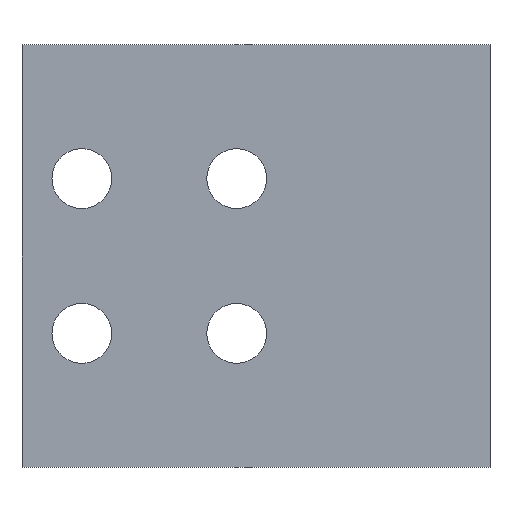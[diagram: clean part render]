
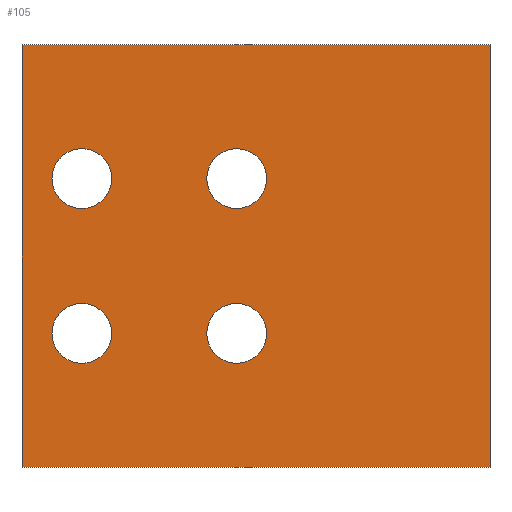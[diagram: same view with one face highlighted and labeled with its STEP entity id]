
A CAD part, front view. The second image highlights one B-rep face of the part: STEP entity #105.
In plain terms, the highlighted planar face has unit normal (0, -1, 0).
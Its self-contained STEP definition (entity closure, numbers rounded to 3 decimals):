
#101 = EDGE_CURVE( '', #241, #139, #267, .T. );
#103 = EDGE_CURVE( '', #175, #227, #269, .T. );
#105 = ADVANCED_FACE( '', ( #271, #272, #273, #274, #275 ), #276, .T. );
#109 = VERTEX_POINT( '', #281 );
#117 = EDGE_CURVE( '', #179, #155, #290, .T. );
#123 = VERTEX_POINT( '', #296 );
#127 = VERTEX_POINT( '', #300 );
#129 = VERTEX_POINT( '', #302 );
#137 = EDGE_CURVE( '', #129, #241, #310, .T. );
#139 = VERTEX_POINT( '', #312 );
#143 = EDGE_CURVE( '', #129, #127, #316, .T. );
#145 = EDGE_CURVE( '', #155, #179, #318, .T. );
#147 = EDGE_CURVE( '', #127, #139, #320, .T. );
#155 = VERTEX_POINT( '', #328 );
#161 = VERTEX_POINT( '', #334 );
#175 = VERTEX_POINT( '', #352 );
#179 = VERTEX_POINT( '', #356 );
#181 = EDGE_CURVE( '', #109, #161, #358, .T. );
#203 = VERTEX_POINT( '', #389 );
#207 = EDGE_CURVE( '', #227, #175, #393, .T. );
#223 = EDGE_CURVE( '', #123, #203, #410, .T. );
#227 = VERTEX_POINT( '', #415 );
#229 = EDGE_CURVE( '', #161, #109, #417, .T. );
#237 = EDGE_CURVE( '', #203, #123, #425, .T. );
#241 = VERTEX_POINT( '', #429 );
#267 = LINE( '', #448, #449 );
#269 = CIRCLE( '', #452, 4.25 );
#271 = FACE_BOUND( '', #454, .T. );
#272 = FACE_BOUND( '', #455, .T. );
#273 = FACE_BOUND( '', #456, .T. );
#274 = FACE_BOUND( '', #457, .T. );
#275 = FACE_OUTER_BOUND( '', #458, .T. );
#276 = PLANE( '', #459 );
#281 = CARTESIAN_POINT( '', ( 1.5, 0., -11. ) );
#290 = CIRCLE( '', #476, 4.25 );
#296 = CARTESIAN_POINT( '', ( -20.5, 0., 11. ) );
#300 = CARTESIAN_POINT( '', ( -33.25, 0., 30. ) );
#302 = CARTESIAN_POINT( '', ( 33.25, 0., 30. ) );
#310 = LINE( '', #502, #503 );
#312 = CARTESIAN_POINT( '', ( -33.25, 0., -30. ) );
#316 = LINE( '', #512, #513 );
#318 = CIRCLE( '', #516, 4.25 );
#320 = LINE( '', #519, #520 );
#328 = CARTESIAN_POINT( '', ( -29., 0., -11. ) );
#334 = CARTESIAN_POINT( '', ( -7., 0., -11. ) );
#352 = CARTESIAN_POINT( '', ( 1.5, 0., 11. ) );
#356 = CARTESIAN_POINT( '', ( -20.5, 0., -11. ) );
#358 = CIRCLE( '', #564, 4.25 );
#389 = CARTESIAN_POINT( '', ( -29., 0., 11. ) );
#393 = CIRCLE( '', #607, 4.25 );
#410 = CIRCLE( '', #635, 4.25 );
#415 = CARTESIAN_POINT( '', ( -7., 0., 11. ) );
#417 = CIRCLE( '', #643, 4.25 );
#425 = CIRCLE( '', #654, 4.25 );
#429 = CARTESIAN_POINT( '', ( 33.25, 0., -30. ) );
#448 = CARTESIAN_POINT( '', ( 33.25, 0., -30. ) );
#449 = VECTOR( '', #671, 1. );
#452 = AXIS2_PLACEMENT_3D( '', #672, #673, #674 );
#454 = EDGE_LOOP( '', ( #676, #677 ) );
#455 = EDGE_LOOP( '', ( #678, #679 ) );
#456 = EDGE_LOOP( '', ( #680, #681 ) );
#457 = EDGE_LOOP( '', ( #682, #683 ) );
#458 = EDGE_LOOP( '', ( #684, #685, #686, #687 ) );
#459 = AXIS2_PLACEMENT_3D( '', #688, #689, #690 );
#476 = AXIS2_PLACEMENT_3D( '', #708, #709, #710 );
#502 = CARTESIAN_POINT( '', ( 33.25, 0., 30. ) );
#503 = VECTOR( '', #720, 1. );
#512 = CARTESIAN_POINT( '', ( 33.25, 0., 30. ) );
#513 = VECTOR( '', #722, 1. );
#516 = AXIS2_PLACEMENT_3D( '', #723, #724, #725 );
#519 = CARTESIAN_POINT( '', ( -33.25, 0., 30. ) );
#520 = VECTOR( '', #726, 1. );
#564 = AXIS2_PLACEMENT_3D( '', #769, #770, #771 );
#607 = AXIS2_PLACEMENT_3D( '', #826, #827, #828 );
#635 = AXIS2_PLACEMENT_3D( '', #842, #843, #844 );
#643 = AXIS2_PLACEMENT_3D( '', #853, #854, #855 );
#654 = AXIS2_PLACEMENT_3D( '', #857, #858, #859 );
#671 = DIRECTION( '', ( -1., 0., 0. ) );
#672 = CARTESIAN_POINT( '', ( -2.75, 0., 11. ) );
#673 = DIRECTION( '', ( 0., 1., 0. ) );
#674 = DIRECTION( '', ( -1., 0., 0. ) );
#676 = ORIENTED_EDGE( '', *, *, #103, .T. );
#677 = ORIENTED_EDGE( '', *, *, #207, .T. );
#678 = ORIENTED_EDGE( '', *, *, #223, .T. );
#679 = ORIENTED_EDGE( '', *, *, #237, .T. );
#680 = ORIENTED_EDGE( '', *, *, #181, .T. );
#681 = ORIENTED_EDGE( '', *, *, #229, .T. );
#682 = ORIENTED_EDGE( '', *, *, #117, .T. );
#683 = ORIENTED_EDGE( '', *, *, #145, .T. );
#684 = ORIENTED_EDGE( '', *, *, #147, .T. );
#685 = ORIENTED_EDGE( '', *, *, #101, .F. );
#686 = ORIENTED_EDGE( '', *, *, #137, .F. );
#687 = ORIENTED_EDGE( '', *, *, #143, .T. );
#688 = CARTESIAN_POINT( '', ( 33.25, 0., 30. ) );
#689 = DIRECTION( '', ( 0., -1., 0. ) );
#690 = DIRECTION( '', ( 0., 0., 1. ) );
#708 = CARTESIAN_POINT( '', ( -24.75, 0., -11. ) );
#709 = DIRECTION( '', ( 0., 1., 0. ) );
#710 = DIRECTION( '', ( -1., 0., 0. ) );
#720 = DIRECTION( '', ( 0., 0., -1. ) );
#722 = DIRECTION( '', ( -1., 0., 0. ) );
#723 = CARTESIAN_POINT( '', ( -24.75, 0., -11. ) );
#724 = DIRECTION( '', ( 0., 1., 0. ) );
#725 = DIRECTION( '', ( -1., 0., 0. ) );
#726 = DIRECTION( '', ( 0., 0., -1. ) );
#769 = CARTESIAN_POINT( '', ( -2.75, 0., -11. ) );
#770 = DIRECTION( '', ( 0., 1., 0. ) );
#771 = DIRECTION( '', ( -1., 0., 0. ) );
#826 = CARTESIAN_POINT( '', ( -2.75, 0., 11. ) );
#827 = DIRECTION( '', ( 0., 1., 0. ) );
#828 = DIRECTION( '', ( -1., 0., 0. ) );
#842 = CARTESIAN_POINT( '', ( -24.75, 0., 11. ) );
#843 = DIRECTION( '', ( 0., 1., 0. ) );
#844 = DIRECTION( '', ( -1., 0., 0. ) );
#853 = CARTESIAN_POINT( '', ( -2.75, 0., -11. ) );
#854 = DIRECTION( '', ( 0., 1., 0. ) );
#855 = DIRECTION( '', ( -1., 0., 0. ) );
#857 = CARTESIAN_POINT( '', ( -24.75, 0., 11. ) );
#858 = DIRECTION( '', ( 0., 1., 0. ) );
#859 = DIRECTION( '', ( -1., 0., 0. ) );
